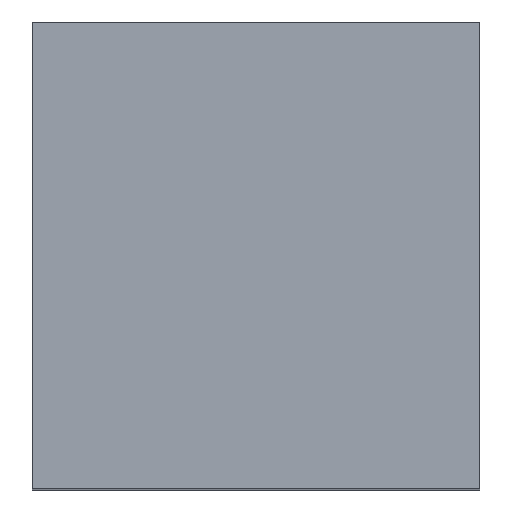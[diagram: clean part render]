
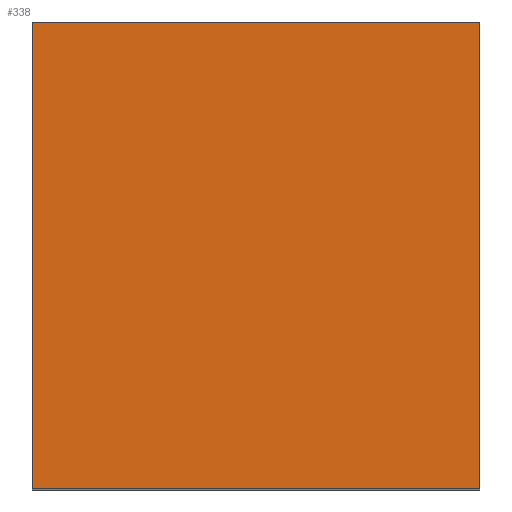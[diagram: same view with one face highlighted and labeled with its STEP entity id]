
A CAD part, top view. The second image highlights one B-rep face of the part: STEP entity #338.
In plain terms, the highlighted planar face has unit normal (0, 0, 1).
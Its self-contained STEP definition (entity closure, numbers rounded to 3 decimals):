
#24 = VERTEX_POINT('',#25);
#25 = CARTESIAN_POINT('',(-79.5,-200.,136.));
#32 = PLANE('',#33);
#33 = AXIS2_PLACEMENT_3D('',#34,#35,#36);
#34 = CARTESIAN_POINT('',(-79.5,-200.,91.));
#35 = DIRECTION('',(1.,0.,-0.));
#36 = DIRECTION('',(0.,0.,1.));
#44 = PLANE('',#45);
#45 = AXIS2_PLACEMENT_3D('',#46,#47,#48);
#46 = CARTESIAN_POINT('',(-79.5,-200.,91.));
#47 = DIRECTION('',(-0.,1.,0.));
#48 = DIRECTION('',(0.,0.,1.));
#85 = VERTEX_POINT('',#86);
#86 = CARTESIAN_POINT('',(-79.5,-175.,136.));
#100 = PLANE('',#101);
#101 = AXIS2_PLACEMENT_3D('',#102,#103,#104);
#102 = CARTESIAN_POINT('',(-79.5,-175.,91.));
#103 = DIRECTION('',(-0.,1.,0.));
#104 = DIRECTION('',(0.,0.,1.));
#112 = EDGE_CURVE('',#24,#85,#113,.T.);
#113 = SURFACE_CURVE('',#114,(#118,#125),.PCURVE_S1.);
#114 = LINE('',#115,#116);
#115 = CARTESIAN_POINT('',(-79.5,-200.,136.));
#116 = VECTOR('',#117,1.);
#117 = DIRECTION('',(-0.,1.,0.));
#118 = PCURVE('',#32,#119);
#119 = DEFINITIONAL_REPRESENTATION('',(#120),#124);
#120 = LINE('',#121,#122);
#121 = CARTESIAN_POINT('',(45.,0.));
#122 = VECTOR('',#123,1.);
#123 = DIRECTION('',(0.,-1.));
#124 = ( GEOMETRIC_REPRESENTATION_CONTEXT(2) 
PARAMETRIC_REPRESENTATION_CONTEXT() REPRESENTATION_CONTEXT('2D SPACE',''
  ) );
#125 = PCURVE('',#126,#131);
#126 = PLANE('',#127);
#127 = AXIS2_PLACEMENT_3D('',#128,#129,#130);
#128 = CARTESIAN_POINT('',(-79.5,-200.,136.));
#129 = DIRECTION('',(0.,0.,1.));
#130 = DIRECTION('',(1.,0.,-0.));
#131 = DEFINITIONAL_REPRESENTATION('',(#132),#136);
#132 = LINE('',#133,#134);
#133 = CARTESIAN_POINT('',(0.,0.));
#134 = VECTOR('',#135,1.);
#135 = DIRECTION('',(0.,1.));
#136 = ( GEOMETRIC_REPRESENTATION_CONTEXT(2) 
PARAMETRIC_REPRESENTATION_CONTEXT() REPRESENTATION_CONTEXT('2D SPACE',''
  ) );
#144 = VERTEX_POINT('',#145);
#145 = CARTESIAN_POINT('',(-55.5,-200.,136.));
#152 = PLANE('',#153);
#153 = AXIS2_PLACEMENT_3D('',#154,#155,#156);
#154 = CARTESIAN_POINT('',(-55.5,-200.,91.));
#155 = DIRECTION('',(1.,0.,-0.));
#156 = DIRECTION('',(0.,0.,1.));
#195 = VERTEX_POINT('',#196);
#196 = CARTESIAN_POINT('',(-55.5,-175.,136.));
#217 = EDGE_CURVE('',#144,#195,#218,.T.);
#218 = SURFACE_CURVE('',#219,(#223,#230),.PCURVE_S1.);
#219 = LINE('',#220,#221);
#220 = CARTESIAN_POINT('',(-55.5,-200.,136.));
#221 = VECTOR('',#222,1.);
#222 = DIRECTION('',(-0.,1.,0.));
#223 = PCURVE('',#152,#224);
#224 = DEFINITIONAL_REPRESENTATION('',(#225),#229);
#225 = LINE('',#226,#227);
#226 = CARTESIAN_POINT('',(45.,0.));
#227 = VECTOR('',#228,1.);
#228 = DIRECTION('',(0.,-1.));
#229 = ( GEOMETRIC_REPRESENTATION_CONTEXT(2) 
PARAMETRIC_REPRESENTATION_CONTEXT() REPRESENTATION_CONTEXT('2D SPACE',''
  ) );
#230 = PCURVE('',#126,#231);
#231 = DEFINITIONAL_REPRESENTATION('',(#232),#236);
#232 = LINE('',#233,#234);
#233 = CARTESIAN_POINT('',(24.,0.));
#234 = VECTOR('',#235,1.);
#235 = DIRECTION('',(0.,1.));
#236 = ( GEOMETRIC_REPRESENTATION_CONTEXT(2) 
PARAMETRIC_REPRESENTATION_CONTEXT() REPRESENTATION_CONTEXT('2D SPACE',''
  ) );
#263 = EDGE_CURVE('',#24,#144,#264,.T.);
#264 = SURFACE_CURVE('',#265,(#269,#276),.PCURVE_S1.);
#265 = LINE('',#266,#267);
#266 = CARTESIAN_POINT('',(-79.5,-200.,136.));
#267 = VECTOR('',#268,1.);
#268 = DIRECTION('',(1.,0.,-0.));
#269 = PCURVE('',#44,#270);
#270 = DEFINITIONAL_REPRESENTATION('',(#271),#275);
#271 = LINE('',#272,#273);
#272 = CARTESIAN_POINT('',(45.,0.));
#273 = VECTOR('',#274,1.);
#274 = DIRECTION('',(0.,1.));
#275 = ( GEOMETRIC_REPRESENTATION_CONTEXT(2) 
PARAMETRIC_REPRESENTATION_CONTEXT() REPRESENTATION_CONTEXT('2D SPACE',''
  ) );
#276 = PCURVE('',#126,#277);
#277 = DEFINITIONAL_REPRESENTATION('',(#278),#282);
#278 = LINE('',#279,#280);
#279 = CARTESIAN_POINT('',(0.,0.));
#280 = VECTOR('',#281,1.);
#281 = DIRECTION('',(1.,0.));
#282 = ( GEOMETRIC_REPRESENTATION_CONTEXT(2) 
PARAMETRIC_REPRESENTATION_CONTEXT() REPRESENTATION_CONTEXT('2D SPACE',''
  ) );
#310 = EDGE_CURVE('',#85,#195,#311,.T.);
#311 = SURFACE_CURVE('',#312,(#316,#323),.PCURVE_S1.);
#312 = LINE('',#313,#314);
#313 = CARTESIAN_POINT('',(-79.5,-175.,136.));
#314 = VECTOR('',#315,1.);
#315 = DIRECTION('',(1.,0.,-0.));
#316 = PCURVE('',#100,#317);
#317 = DEFINITIONAL_REPRESENTATION('',(#318),#322);
#318 = LINE('',#319,#320);
#319 = CARTESIAN_POINT('',(45.,0.));
#320 = VECTOR('',#321,1.);
#321 = DIRECTION('',(0.,1.));
#322 = ( GEOMETRIC_REPRESENTATION_CONTEXT(2) 
PARAMETRIC_REPRESENTATION_CONTEXT() REPRESENTATION_CONTEXT('2D SPACE',''
  ) );
#323 = PCURVE('',#126,#324);
#324 = DEFINITIONAL_REPRESENTATION('',(#325),#329);
#325 = LINE('',#326,#327);
#326 = CARTESIAN_POINT('',(0.,25.));
#327 = VECTOR('',#328,1.);
#328 = DIRECTION('',(1.,0.));
#329 = ( GEOMETRIC_REPRESENTATION_CONTEXT(2) 
PARAMETRIC_REPRESENTATION_CONTEXT() REPRESENTATION_CONTEXT('2D SPACE',''
  ) );
#338 = ADVANCED_FACE('',(#339),#126,.T.);
#339 = FACE_BOUND('',#340,.T.);
#340 = EDGE_LOOP('',(#341,#342,#343,#344));
#341 = ORIENTED_EDGE('',*,*,#112,.F.);
#342 = ORIENTED_EDGE('',*,*,#263,.T.);
#343 = ORIENTED_EDGE('',*,*,#217,.T.);
#344 = ORIENTED_EDGE('',*,*,#310,.F.);
